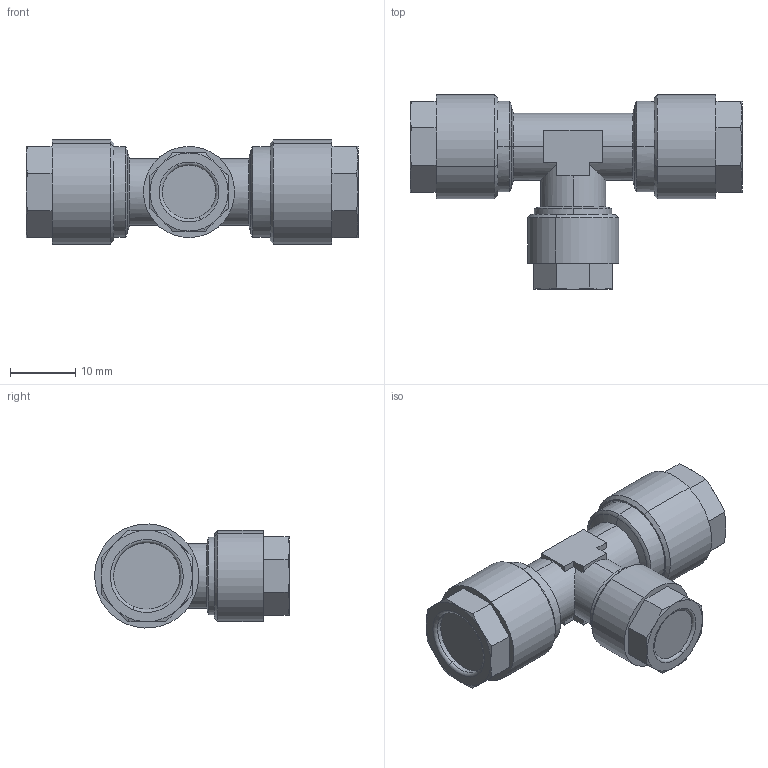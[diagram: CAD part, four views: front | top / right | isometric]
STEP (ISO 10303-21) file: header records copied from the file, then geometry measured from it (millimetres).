
FILE_DESCRIPTION (( 'STEP AP214' ), '1' );
FILE_NAME ('0123000007.step', '2012-09-28T13:26:06', ( '' ), ( '' ), 'SwSTEP 2.0', 'SolidWorks 2012', '' );
FILE_SCHEMA (( 'AUTOMOTIVE_DESIGN' ));
Length unit declared in the file: millimetre
Products named in the file (1): 0123000007
Bounding box: 51 x 29.89 x 15.98 mm (x, y, z)
Volume: 9393.4 mm3; surface area: 3736.3 mm2
Topology: 1 solids, 1 shells, 130 faces, 304 edges, 185 vertices
Faces by surface type: plane 54, cone 45, cylinder 21, torus 10
Entity records: 5249 total; most frequent: CARTESIAN_POINT 820, DIRECTION 637, ORIENTED_EDGE 608, EDGE_CURVE 304, AXIS2_PLACEMENT_3D 252, VERTEX_POINT 185, EDGE_LOOP 139, UNCERTAINTY_MEASURE_WITH_UNIT 133
